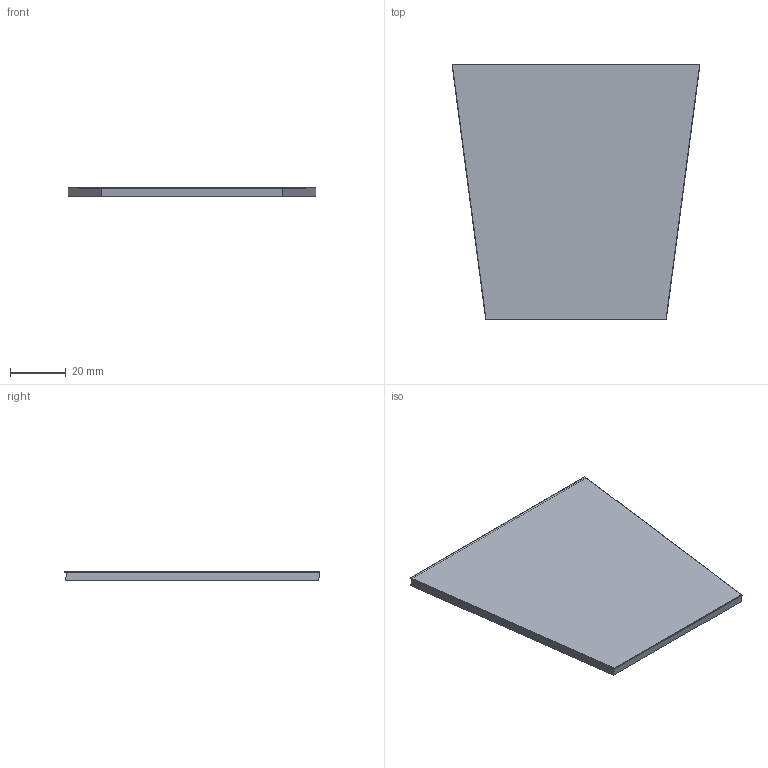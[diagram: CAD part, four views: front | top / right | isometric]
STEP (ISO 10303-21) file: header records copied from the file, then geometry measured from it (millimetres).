
FILE_DESCRIPTION(/* description */ ('STEP AP214','CAx-IF Rec.Pracs.---User Defined Attributes---1.5---2016-08-15'),/* implementation_level */ '2;1');
FILE_NAME(/* name */ '6ae31f03f048ba5c842f5e1b',/* time_stamp */ '2026-10-29T10:25:07Z',/* author */ (''),/* organization */ (''),/* preprocessor_version */ 'ST-DEVELOPER v20',/* originating_system */ 'ONSHAPE BY PTC INC, 1.222',/* authorisation */ ' ');
FILE_SCHEMA (('AUTOMOTIVE_DESIGN {1 0 10303 214 3 1 1}'));
Length unit declared in the file: metre
Products named in the file (3): window_measured; window_thin; window
Bounding box: 88.77 x 91.64 x 3.17 mm (x, y, z)
Volume: 23525.9 mm3; surface area: 43057.8 mm2
Topology: 3 solids, 3 shells, 19 faces, 39 edges, 26 vertices
Faces by surface type: plane 19
Entity records: 575 total; most frequent: CARTESIAN_POINT 87, DIRECTION 83, ORIENTED_EDGE 78, EDGE_CURVE 39, LINE 39, VECTOR 39, VERTEX_POINT 26, AXIS2_PLACEMENT_3D 22
